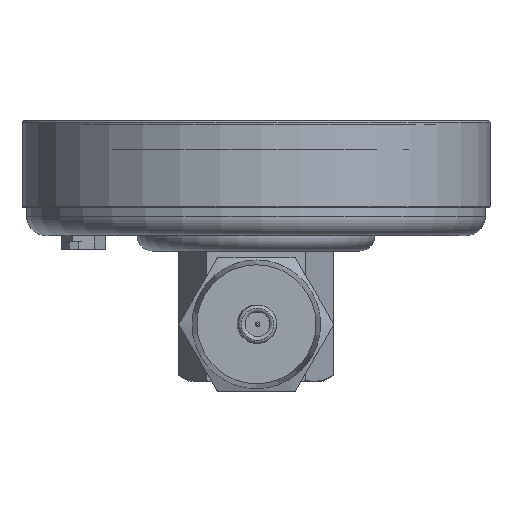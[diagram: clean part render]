
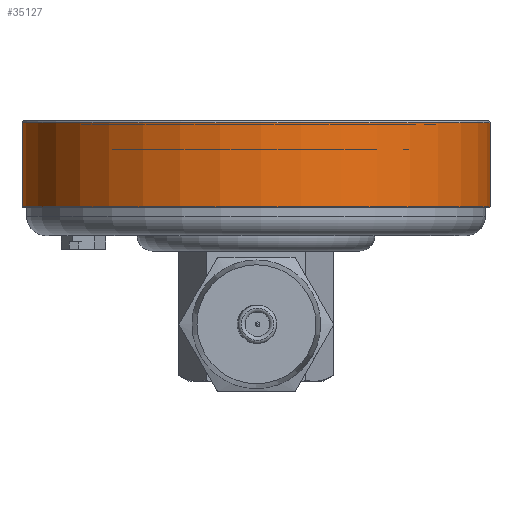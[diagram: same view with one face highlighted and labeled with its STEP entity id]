
A CAD part, front view. The second image highlights one B-rep face of the part: STEP entity #35127.
In plain terms, the highlighted cylindrical face has radius 38.735 mm (diameter 77.47 mm), a full revolution.
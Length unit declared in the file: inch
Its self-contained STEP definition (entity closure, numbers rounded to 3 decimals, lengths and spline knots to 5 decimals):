
#68=CYLINDRICAL_SURFACE($,#36511,1.525);
#514=FACE_BOUND($,#5492,.T.);
#577=CIRCLE($,#36509,1.525);
#579=CIRCLE($,#36512,1.525);
#3390=FACE_OUTER_BOUND($,#5491,.T.);
#5491=EDGE_LOOP($,(#30418));
#5492=EDGE_LOOP($,(#30419));
#16374=VERTEX_POINT($,#59562);
#16376=VERTEX_POINT($,#59567);
#21075=EDGE_CURVE($,#16374,#16374,#577,.T.);
#21077=EDGE_CURVE($,#16376,#16376,#579,.T.);
#30418=ORIENTED_EDGE($,*,*,#21077,.F.);
#30419=ORIENTED_EDGE($,*,*,#21075,.F.);
#35127=ADVANCED_FACE($,(#3390,#514),#68,.T.);
#36509=AXIS2_PLACEMENT_3D($,#59563,#42914,#42915);
#36511=AXIS2_PLACEMENT_3D($,#59566,#42918,#42919);
#36512=AXIS2_PLACEMENT_3D($,#59568,#42920,#42921);
#42914=DIRECTION('center_axis',(0.,0.,
-1.));
#42915=DIRECTION('ref_axis',(-0.856,-0.518,0.));
#42918=DIRECTION('center_axis',(0.,0.,
-1.));
#42919=DIRECTION('ref_axis',(0.856,0.518,0.));
#42920=DIRECTION('center_axis',(0.,0.,
1.));
#42921=DIRECTION('ref_axis',(-0.856,-0.518,0.));
#59562=CARTESIAN_POINT('',(3.70266,4.43695,7.26849));
#59563=CARTESIAN_POINT('Origin',(2.3978,3.64769,7.26849));
#59566=CARTESIAN_POINT('Origin',(2.3978,3.64769,7.54999));
#59567=CARTESIAN_POINT('',(3.70266,4.43695,7.81612));
#59568=CARTESIAN_POINT('Origin',(2.3978,3.64769,7.81612));
